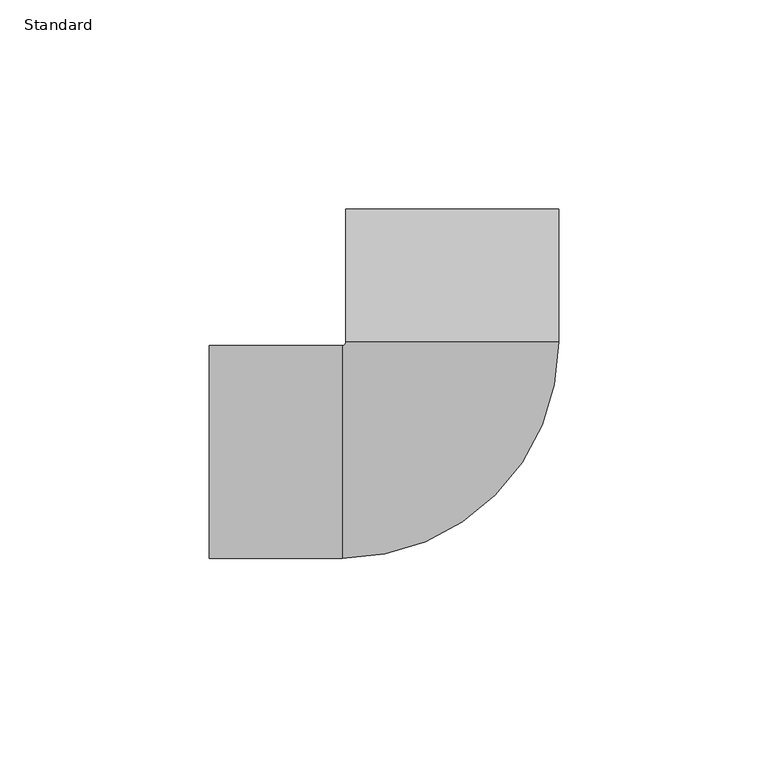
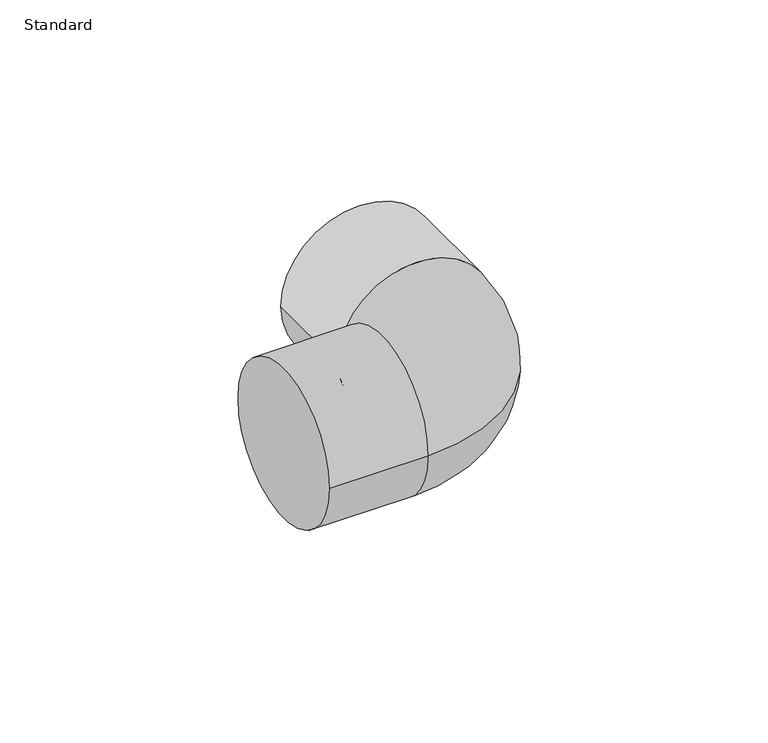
"""IFC4 building model written with IfcOpenShell, lengths in millimetres: pipe fitting geometry, M_Elbow - CPVC - Sch 40 : Standard."""

from ifc_helpers import new_model, si_unit, point, frame, origin, place, context, project, spatial, circle_curve, ellipse_curve, trimmed, source, transform, mapped, element, save
from ifc_brep_helpers import plane_surface, cylinder_surface, revolved_surface, advanced_brep


def standard_69e4ce0e(model_context):
    return source(origin(), model_context, "Body", "AdvancedBrep", [
        advanced_brep(
        [(-57.94375, -25.4, 0.0), (-57.94375, 25.4, 0.0), (-26.19375, -25.4, 0.0), (-26.19375, 25.4, 0.0), (-25.4, 26.19375, 0.0), (25.4, 26.19375, 0.0), (25.4, 57.94375, 0.0), (-25.4, 57.94375, 0.0)],
        [
            (0, 1, circle_curve(frame((-57.94375, 0.0, 0.0), z_axis=(-1.0, 0.0, 0.0), x_axis=(0.0, 1.0, 0.0)), 25.4)),
            (1, 0, circle_curve(frame((-57.94375, 0.0, 0.0), z_axis=(-1.0, 0.0, 0.0), x_axis=(0.0, 1.0, 0.0)), 25.4)),
            (0, 2),
            (2, 3, circle_curve(frame((-26.19375, 0.0, 0.0), z_axis=(-1.0, 0.0, 0.0), x_axis=(0.0, 1.0, 0.0)), 25.4)),
            (3, 1),
            (3, 2, circle_curve(frame((-26.19375, 0.0, 0.0), z_axis=(-1.0, 0.0, 0.0), x_axis=(0.0, 1.0, 0.0)), 25.4)),
            (4, 3, circle_curve(frame((-26.19375, 26.19375, 0.0), z_axis=(0.0, 0.0, -1.0), x_axis=(0.0, -1.0, 0.0)), 0.79375)),
            (2, 5, circle_curve(frame((-26.19375, 26.19375, 0.0), z_axis=(0.0, 0.0, 1.0), x_axis=(0.0, -1.0, 0.0)), 51.59375)),
            (5, 4, circle_curve(frame((0.0, 26.19375, 0.0), z_axis=(0.0, -1.0, 0.0), x_axis=(-1.0, 0.0, 0.0)), 25.4)),
            (4, 5, circle_curve(frame((0.0, 26.19375, 0.0), z_axis=(0.0, -1.0, 0.0), x_axis=(-1.0, 0.0, 0.0)), 25.4)),
            (6, 7, circle_curve(frame((0.0, 57.94375, 0.0), z_axis=(0.0, 1.0, 0.0), x_axis=(-1.0, 0.0, 0.0)), 25.4)),
            (7, 6, circle_curve(frame((0.0, 57.94375, 0.0), z_axis=(0.0, 1.0, 0.0), x_axis=(-1.0, 0.0, 0.0)), 25.4)),
            (5, 6),
            (7, 4),
        ],
        [
            plane_surface(frame((-57.94375, 0.0, 0.0), z_axis=(-1.0, 0.0, 0.0), x_axis=(0.0, 0.0, 1.0))),
            cylinder_surface(frame((-57.94375, 0.0, 0.0), z_axis=(-1.0, 0.0, 0.0), x_axis=(0.0, 1.0, 0.0)), 25.4),
            revolved_surface(trimmed(ellipse_curve(frame((-26.19375, 0.0, 0.0), z_axis=(-1.0, 0.0, 0.0), x_axis=(0.0, 1.0, 0.0)), 25.4, 25.4), [point((-26.19375, -25.4, 0.0))], [point((-26.19375, 25.4, 0.0))], True, "CARTESIAN"), (-26.19375, 26.19375, 0.0), (0.0, 0.0, 1.0)),
            revolved_surface(trimmed(ellipse_curve(frame((-26.19375, 0.0, 0.0), z_axis=(-1.0, 0.0, 0.0), x_axis=(0.0, 1.0, 0.0)), 25.4, 25.4), [point((-26.19375, 25.4, 0.0))], [point((-26.19375, -25.4, 0.0))], True, "CARTESIAN"), (-26.19375, 26.19375, 0.0), (0.0, 0.0, 1.0)),
            plane_surface(frame((0.0, 57.94375, 0.0), z_axis=(0.0, 1.0, 0.0), x_axis=(0.0, 0.0, 1.0))),
            cylinder_surface(frame((0.0, 26.19375, 0.0), z_axis=(0.0, -1.0, 0.0), x_axis=(-1.0, 0.0, 0.0)), 25.4),
        ],
        [
            (0, [[1, 2]]),
            (1, [[-1, 3, 4, 5]]),
            (1, [[-2, -5, 6, -3]]),
            (2, [[7, -4, 8, 9]]),
            (3, [[-8, -6, -7, 10]]),
            (4, [[11, 12]]),
            (5, [[-9, 13, -12, 14]]),
            (5, [[-10, -14, -11, -13]]),
        ],
    ),
    ])


if __name__ == "__main__":
    model = new_model("IFC4")
    model_context = context("Model", 3, world=origin())
    ifc_project = project(units=[si_unit("LENGTHUNIT", "METRE", prefix="MILLI")], contexts=[model_context])
    site = spatial("IfcSite", under=ifc_project)
    building = spatial("IfcBuilding", under=site)
    placement = place(None, origin())
    standard_shape = standard_69e4ce0e(model_context)
    element("IfcPipeFitting", 1, ObjectType="M_Elbow - CPVC - Sch 40 : Standard", at=placement, inside=building, context=model_context, shape_type="MappedRepresentation", body=[
        mapped(standard_shape, transform((0.0, 0.0, 0.0), x_axis=(1.0, 0.0, 0.0), y_axis=(0.0, 1.0, 0.0), z_axis=(0.0, 0.0, 1.0))),
    ])
    save(model, "model.ifc")
